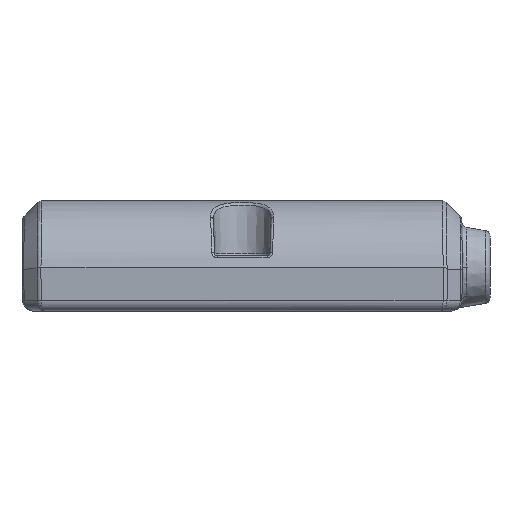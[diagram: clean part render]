
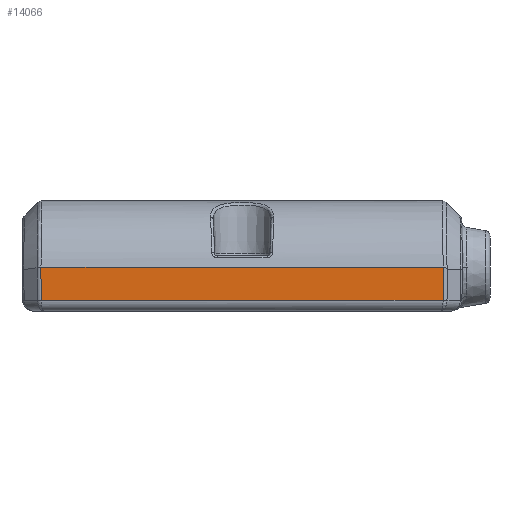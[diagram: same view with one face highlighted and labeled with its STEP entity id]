
A CAD part, left-side view. The second image highlights one B-rep face of the part: STEP entity #14066.
In plain terms, the highlighted planar face has unit normal (-1, 0, -0.018) as drawn and (1, 0, -0.017) by its records, which use the part's own axes.
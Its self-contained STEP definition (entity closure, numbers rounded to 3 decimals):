
#3364 = AXIS2_PLACEMENT_3D ( 'NONE', #6810, #6833, #6835 ) ;
#4302 = FACE_OUTER_BOUND ( 'NONE', #14352, .T. ) ;
#6810 = CARTESIAN_POINT ( 'NONE',  ( 68., -40., 0. ) ) ;
#6821 = PLANE ( 'NONE',  #3364 ) ;
#6833 = DIRECTION ( 'NONE',  ( 1., 0., -0.017 ) ) ;
#6835 = DIRECTION ( 'NONE',  ( -0.017, 0., -1. ) ) ;
#8904 = LINE ( 'NONE', #13006, #8905 ) ;
#8905 = VECTOR ( 'NONE', #13007, 1000. ) ;
#8922 = LINE ( 'NONE', #13043, #8923 ) ;
#8923 = VECTOR ( 'NONE', #13044, 1000. ) ;
#8931 = LINE ( 'NONE', #13096, #8934 ) ;
#8934 = VECTOR ( 'NONE', #13097, 1000. ) ;
#9005 = LINE ( 'NONE', #13657, #9006 ) ;
#9006 = VECTOR ( 'NONE', #13658, 1000. ) ;
#10606 = CARTESIAN_POINT ( 'NONE',  ( 68., -36.553, 0. ) ) ;
#10620 = CARTESIAN_POINT ( 'NONE',  ( 67.895, -36.48, -6.035 ) ) ;
#10638 = CARTESIAN_POINT ( 'NONE',  ( 68., 36.584, -0.018 ) ) ;
#10658 = CARTESIAN_POINT ( 'NONE',  ( 67.895, 36.479, -6.035 ) ) ;
#12821 = CARTESIAN_POINT ( 'NONE',  ( 68., 36.497, 0. ) ) ;
#12842 = CARTESIAN_POINT ( 'NONE',  ( 68., -36.585, -0.002 ) ) ;
#13006 = CARTESIAN_POINT ( 'NONE',  ( 67.895, 36.859, -6.035 ) ) ;
#13007 = DIRECTION ( 'NONE',  ( 0., 1., 0. ) ) ;
#13043 = CARTESIAN_POINT ( 'NONE',  ( 68.001, -36.586, 0.06 ) ) ;
#13044 = DIRECTION ( 'NONE',  ( -0.017, 0.017, -1. ) ) ;
#13087 = CARTESIAN_POINT ( 'NONE',  ( 68., 36.584, -0.018 ) ) ;
#13093 = CARTESIAN_POINT ( 'NONE',  ( 68., 36.556, -0.006 ) ) ;
#13094 = CARTESIAN_POINT ( 'NONE',  ( 68., 36.527, 0. ) ) ;
#13095 = CARTESIAN_POINT ( 'NONE',  ( 68., 36.497, 0. ) ) ;
#13096 = CARTESIAN_POINT ( 'NONE',  ( 67.977, 36.561, -1.336 ) ) ;
#13097 = DIRECTION ( 'NONE',  ( 0.017, 0.017, 1. ) ) ;
#13101 = CARTESIAN_POINT ( 'NONE',  ( 68., -36.553, 0. ) ) ;
#13105 = CARTESIAN_POINT ( 'NONE',  ( 68., -36.564, 0. ) ) ;
#13106 = CARTESIAN_POINT ( 'NONE',  ( 68., -36.575, -0.001 ) ) ;
#13107 = CARTESIAN_POINT ( 'NONE',  ( 68., -36.585, -0.002 ) ) ;
#13657 = CARTESIAN_POINT ( 'NONE',  ( 68., -40., 0. ) ) ;
#13658 = DIRECTION ( 'NONE',  ( 0., 1., 0. ) ) ;
#14066 = ADVANCED_FACE ( 'NONE', ( #4302 ), #6821, .T. ) ;
#14352 = EDGE_LOOP ( 'NONE', ( #14577, #14578, #14579, #14580, #14581, #14582 ) ) ;
#14577 = ORIENTED_EDGE ( 'NONE', *, *, #16672, .T. ) ;
#14578 = ORIENTED_EDGE ( 'NONE', *, *, #16656, .T. ) ;
#14579 = ORIENTED_EDGE ( 'NONE', *, *, #16642, .T. ) ;
#14580 = ORIENTED_EDGE ( 'NONE', *, *, #16669, .T. ) ;
#14581 = ORIENTED_EDGE ( 'NONE', *, *, #16668, .T. ) ;
#14582 = ORIENTED_EDGE ( 'NONE', *, *, #20570, .F. ) ;
#15928 = VERTEX_POINT ( 'NONE', #10606 ) ;
#15953 = VERTEX_POINT ( 'NONE', #10620 ) ;
#15981 = VERTEX_POINT ( 'NONE', #10638 ) ;
#16004 = VERTEX_POINT ( 'NONE', #10658 ) ;
#16343 = VERTEX_POINT ( 'NONE', #12821 ) ;
#16377 = VERTEX_POINT ( 'NONE', #12842 ) ;
#16642 = EDGE_CURVE ( 'NONE', #15953, #16004, #8904, .T. ) ;
#16656 = EDGE_CURVE ( 'NONE', #16377, #15953, #8922, .T. ) ;
#16668 = EDGE_CURVE ( 'NONE', #15981, #16343, #20609, .T. ) ;
#16669 = EDGE_CURVE ( 'NONE', #16004, #15981, #8931, .T. ) ;
#16672 = EDGE_CURVE ( 'NONE', #15928, #16377, #20611, .T. ) ;
#20570 = EDGE_CURVE ( 'NONE', #15928, #16343, #9005, .T. ) ;
#20609 = B_SPLINE_CURVE_WITH_KNOTS ( 'NONE', 3,
 ( #13087, #13093, #13094, #13095 ),
 .UNSPECIFIED., .F., .F.,
 ( 4, 4 ),
 ( 0., 0. ),
 .UNSPECIFIED. ) ;
#20611 = B_SPLINE_CURVE_WITH_KNOTS ( 'NONE', 3,
 ( #13101, #13105, #13106, #13107 ),
 .UNSPECIFIED., .F., .F.,
 ( 4, 4 ),
 ( 0., 0. ),
 .UNSPECIFIED. ) ;
